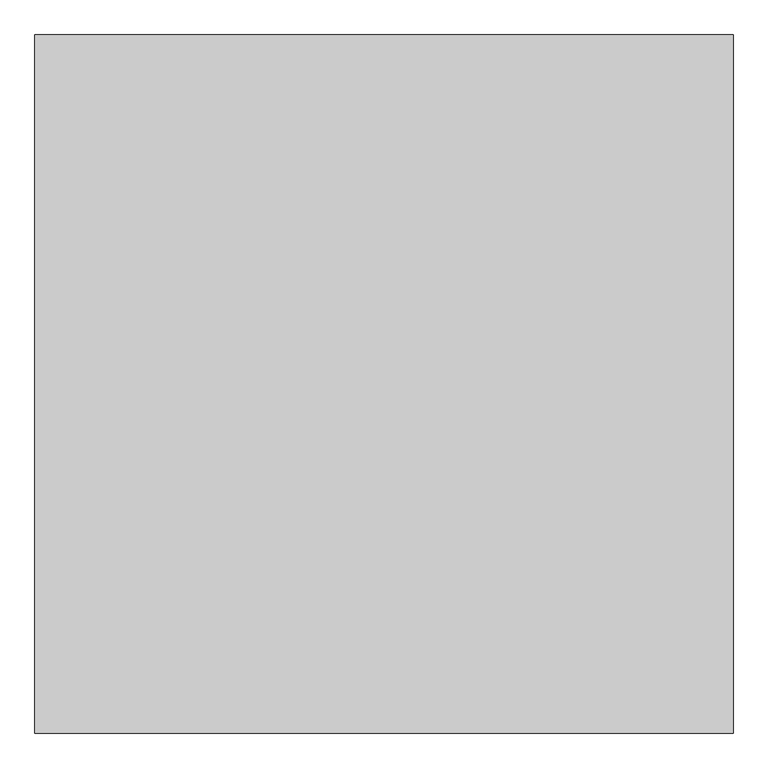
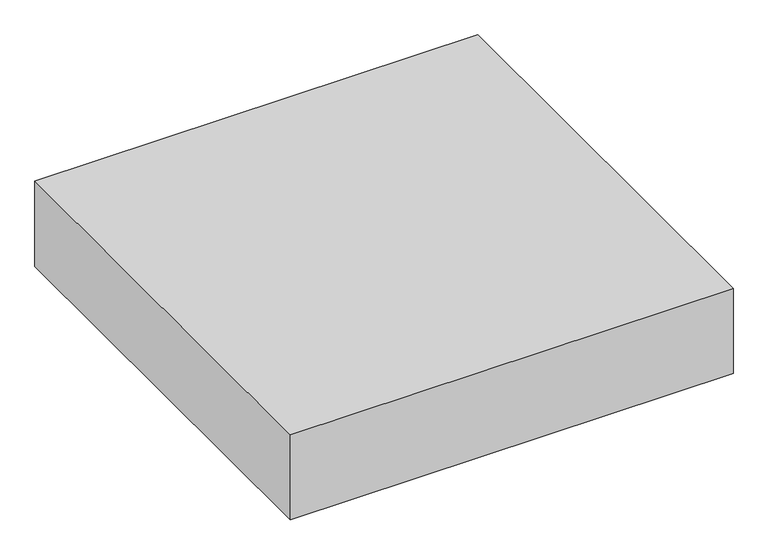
"""IFC4 building model written with IfcOpenShell, lengths in millimetres: cable carrier fitting geometry, Legrand_CableLadder_Swifts_Sapphire_Reducer-13 : Straight - Hot Dip Galvanised (after manufacture)."""

from ifc_helpers import new_model, si_unit, frame, origin, place, context, project, spatial, polyline, outline, extrude, source, transform, mapped, element, save


def cable_carrier_fitting_0ded0fd3(model_context):
    return source(origin(), model_context, "Body", "SweptSolid", [
        extrude(outline(polyline([(-250.0, 71.5), (-250.0, 97.0), (20.6673784, 97.0), (53.8433323, 75.0), (250.0, 75.0), (250.0, 49.5), (46.1566677, 49.5), (12.9807138, 71.5), (-250.0, 71.5)])), frame((0.0, 0.0, -62.5), z_axis=(0.0, 0.0, 1.0), x_axis=(1.0, 0.0, 0.0)), (0.0, 0.0, 1.0), 125.0),
        extrude(outline(polyline([(-250.0, -97.0), (-250.0, -71.5), (12.9807138, -71.5), (46.1566677, -49.5), (250.0, -49.5), (250.0, -75.0), (53.8433323, -75.0), (20.6673784, -97.0), (-250.0, -97.0)])), frame((0.0, 0.0, -62.5), z_axis=(0.0, 0.0, 1.0), x_axis=(1.0, 0.0, 0.0)), (0.0, 0.0, 1.0), 125.0),
        extrude(outline(polyline([(117.0, 49.5), (117.0, -49.5), (75.0, -49.5), (75.0, 49.5), (117.0, 49.5)])), frame((0.0, 0.0, -52.5), z_axis=(0.0, 0.0, 1.0), x_axis=(1.0, 0.0, 0.0)), (0.0, 0.0, 1.0), 21.0),
        extrude(outline(polyline([(-130.0, -71.5), (-130.0, 71.5), (-88.0, 71.5), (-88.0, -71.5), (-130.0, -71.5)])), frame((0.0, 0.0, -52.5), z_axis=(0.0, 0.0, 1.0), x_axis=(1.0, 0.0, 0.0)), (0.0, 0.0, 1.0), 21.0),
        extrude(outline(polyline([(500.0, 500.0), (500.0, -500.0), (-500.0, -500.0), (-500.0, 500.0), (500.0, 500.0)])), frame((0.0, 0.0, -101.6), z_axis=(0.0, 0.0, 1.0), x_axis=(1.0, 0.0, 0.0)), (0.0, 0.0, 1.0), 203.2),
    ])


if __name__ == "__main__":
    model = new_model("IFC4")
    model_context = context("Model", 3, world=origin())
    ifc_project = project(units=[si_unit("LENGTHUNIT", "METRE", prefix="MILLI")], contexts=[model_context])
    site = spatial("IfcSite", under=ifc_project)
    building = spatial("IfcBuilding", under=site)
    placement = place(None, origin())
    cable_carrier_fitting_shape = cable_carrier_fitting_0ded0fd3(model_context)
    element("IfcCableCarrierFitting", 1, ObjectType="Legrand_CableLadder_Swifts_Sapphire_Reducer-13 : Straight - Hot Dip Galvanised (after manufacture)", at=placement, inside=building, context=model_context, shape_type="MappedRepresentation", body=[
        mapped(cable_carrier_fitting_shape, transform((0.0, 0.0, 0.0), x_axis=(1.0, 0.0, 0.0), y_axis=(0.0, 1.0, 0.0), z_axis=(0.0, 0.0, 1.0))),
    ])
    save(model, "model.ifc")
